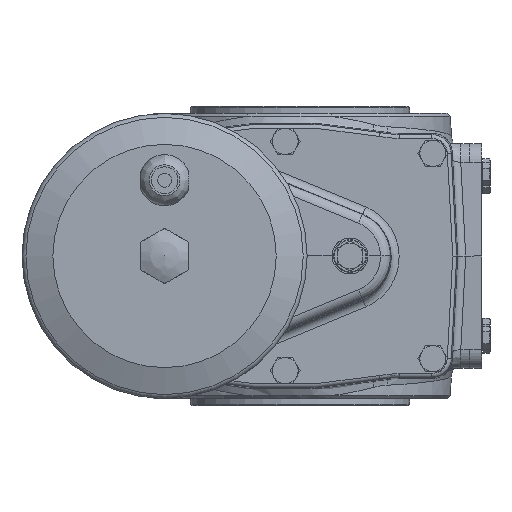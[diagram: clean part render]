
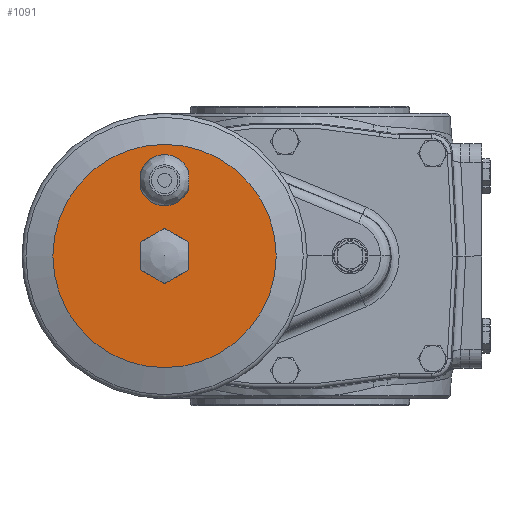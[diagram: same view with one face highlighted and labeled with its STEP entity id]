
A CAD part, left-side view. The second image highlights one B-rep face of the part: STEP entity #1091.
In plain terms, the highlighted planar face has unit normal (-1, 0, 0).
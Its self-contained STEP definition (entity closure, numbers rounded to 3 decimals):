
#1091 = ADVANCED_FACE( '', ( #2864, #2865, #2866 ), #2867, .T. );
#2864 = FACE_BOUND( '', #6901, .T. );
#2865 = FACE_OUTER_BOUND( '', #6902, .T. );
#2866 = FACE_BOUND( '', #6903, .T. );
#2867 = PLANE( '', #6904 );
#6901 = EDGE_LOOP( '', ( #18111, #18112, #18113, #18114 ) );
#6902 = EDGE_LOOP( '', ( #18115 ) );
#6903 = EDGE_LOOP( '', ( #18116, #18117, #18118, #18119, #18120, #18121 ) );
#6904 = AXIS2_PLACEMENT_3D( '', #18122, #18123, #18124 );
#18111 = ORIENTED_EDGE( '', *, *, #23594, .F. );
#18112 = ORIENTED_EDGE( '', *, *, #23236, .F. );
#18113 = ORIENTED_EDGE( '', *, *, #23353, .F. );
#18114 = ORIENTED_EDGE( '', *, *, #23595, .T. );
#18115 = ORIENTED_EDGE( '', *, *, #23596, .T. );
#18116 = ORIENTED_EDGE( '', *, *, #23597, .T. );
#18117 = ORIENTED_EDGE( '', *, *, #23598, .T. );
#18118 = ORIENTED_EDGE( '', *, *, #23599, .T. );
#18119 = ORIENTED_EDGE( '', *, *, #23600, .T. );
#18120 = ORIENTED_EDGE( '', *, *, #23601, .T. );
#18121 = ORIENTED_EDGE( '', *, *, #23602, .T. );
#18122 = CARTESIAN_POINT( '', ( -565., 68., 56. ) );
#18123 = DIRECTION( '', ( -1., 0., 0. ) );
#18124 = DIRECTION( '', ( 0., 0., 1. ) );
#23236 = EDGE_CURVE( '', #25815, #25818, #25819, .T. );
#23353 = EDGE_CURVE( '', #26010, #25815, #26013, .T. );
#23594 = EDGE_CURVE( '', #25818, #26403, #26404, .T. );
#23595 = EDGE_CURVE( '', #26010, #26403, #26405, .T. );
#23596 = EDGE_CURVE( '', #26406, #26406, #26407, .T. );
#23597 = EDGE_CURVE( '', #26408, #26409, #26410, .T. );
#23598 = EDGE_CURVE( '', #26409, #26411, #26412, .T. );
#23599 = EDGE_CURVE( '', #26411, #26413, #26414, .T. );
#23600 = EDGE_CURVE( '', #26413, #26415, #26416, .T. );
#23601 = EDGE_CURVE( '', #26415, #26417, #26418, .T. );
#23602 = EDGE_CURVE( '', #26417, #26408, #26419, .T. );
#25815 = VERTEX_POINT( '', #30326 );
#25818 = VERTEX_POINT( '', #30330 );
#25819 = LINE( '', #30331, #30332 );
#26010 = VERTEX_POINT( '', #30779 );
#26013 = CIRCLE( '', #30783, 12.8 );
#26403 = VERTEX_POINT( '', #31603 );
#26404 = CIRCLE( '', #31604, 12.8 );
#26405 = LINE( '', #31605, #31606 );
#26406 = VERTEX_POINT( '', #31607 );
#26407 = CIRCLE( '', #31608, 56. );
#26408 = VERTEX_POINT( '', #31609 );
#26409 = VERTEX_POINT( '', #31610 );
#26410 = LINE( '', #31611, #31612 );
#26411 = VERTEX_POINT( '', #31613 );
#26412 = LINE( '', #31614, #31615 );
#26413 = VERTEX_POINT( '', #31616 );
#26414 = LINE( '', #31617, #31618 );
#26415 = VERTEX_POINT( '', #31619 );
#26416 = LINE( '', #31620, #31621 );
#26417 = VERTEX_POINT( '', #31622 );
#26418 = LINE( '', #31623, #31624 );
#26419 = LINE( '', #31625, #31626 );
#30326 = CARTESIAN_POINT( '', ( -565., 80., 42.454 ) );
#30330 = CARTESIAN_POINT( '', ( -565., 80., 33.546 ) );
#30331 = CARTESIAN_POINT( '', ( -565., 80., 42.454 ) );
#30332 = VECTOR( '', #37150, 1000. );
#30779 = CARTESIAN_POINT( '', ( -565., 56., 42.454 ) );
#30783 = AXIS2_PLACEMENT_3D( '', #37300, #37301, #37302 );
#31603 = CARTESIAN_POINT( '', ( -565., 56., 33.546 ) );
#31604 = AXIS2_PLACEMENT_3D( '', #37576, #37577, #37578 );
#31605 = CARTESIAN_POINT( '', ( -565., 56., 42.454 ) );
#31606 = VECTOR( '', #37579, 1000. );
#31607 = CARTESIAN_POINT( '', ( -565., 68., 56. ) );
#31608 = AXIS2_PLACEMENT_3D( '', #37580, #37581, #37582 );
#31609 = CARTESIAN_POINT( '', ( -565., 56., -6.928 ) );
#31610 = CARTESIAN_POINT( '', ( -565., 68., -13.856 ) );
#31611 = CARTESIAN_POINT( '', ( -565., 56., -6.928 ) );
#31612 = VECTOR( '', #37583, 1000. );
#31613 = CARTESIAN_POINT( '', ( -565., 80., -6.928 ) );
#31614 = CARTESIAN_POINT( '', ( -565., 68., -13.856 ) );
#31615 = VECTOR( '', #37584, 1000. );
#31616 = CARTESIAN_POINT( '', ( -565., 80., 6.928 ) );
#31617 = CARTESIAN_POINT( '', ( -565., 80., -6.928 ) );
#31618 = VECTOR( '', #37585, 1000. );
#31619 = CARTESIAN_POINT( '', ( -565., 68., 13.856 ) );
#31620 = CARTESIAN_POINT( '', ( -565., 80., 6.928 ) );
#31621 = VECTOR( '', #37586, 1000. );
#31622 = CARTESIAN_POINT( '', ( -565., 56., 6.928 ) );
#31623 = CARTESIAN_POINT( '', ( -565., 68., 13.856 ) );
#31624 = VECTOR( '', #37587, 1000. );
#31625 = CARTESIAN_POINT( '', ( -565., 56., 6.928 ) );
#31626 = VECTOR( '', #37588, 1000. );
#37150 = DIRECTION( '', ( 0., 0., -1. ) );
#37300 = CARTESIAN_POINT( '', ( -565., 68., 38. ) );
#37301 = DIRECTION( '', ( -1., 0., 0. ) );
#37302 = DIRECTION( '', ( 0., 0., 1. ) );
#37576 = CARTESIAN_POINT( '', ( -565., 68., 38. ) );
#37577 = DIRECTION( '', ( -1., 0., 0. ) );
#37578 = DIRECTION( '', ( 0., 0., 1. ) );
#37579 = DIRECTION( '', ( 0., 0., -1. ) );
#37580 = CARTESIAN_POINT( '', ( -565., 68., 0. ) );
#37581 = DIRECTION( '', ( -1., 0., 0. ) );
#37582 = DIRECTION( '', ( 0., 0., 1. ) );
#37583 = DIRECTION( '', ( 0., 0.866, -0.5 ) );
#37584 = DIRECTION( '', ( 0., 0.866, 0.5 ) );
#37585 = DIRECTION( '', ( 0., 0., 1. ) );
#37586 = DIRECTION( '', ( 0., -0.866, 0.5 ) );
#37587 = DIRECTION( '', ( 0., -0.866, -0.5 ) );
#37588 = DIRECTION( '', ( 0., 0., -1. ) );
